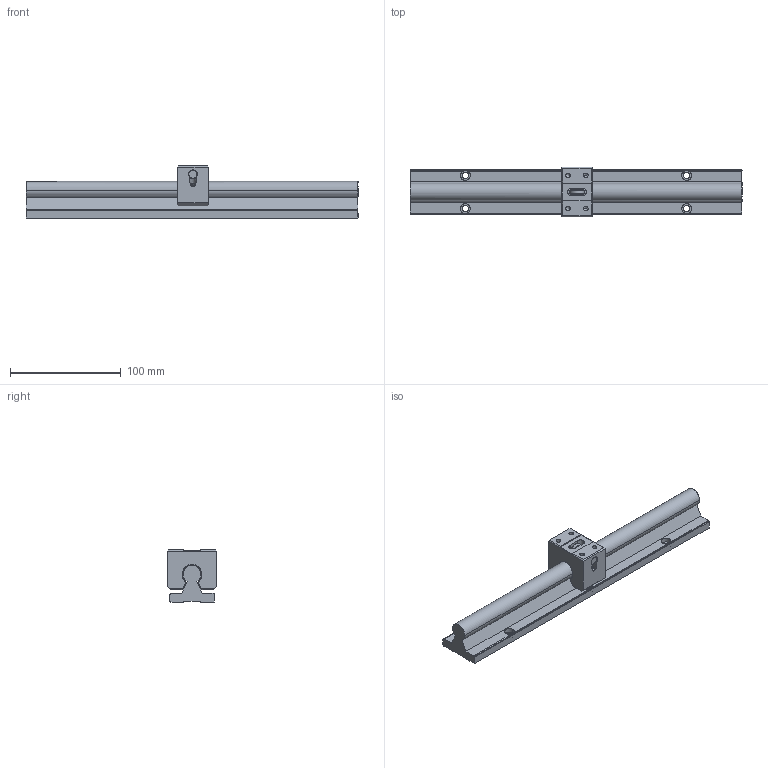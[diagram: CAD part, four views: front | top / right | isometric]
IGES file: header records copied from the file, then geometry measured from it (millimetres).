
Global section: file name: No Iges File Name specified; native system: AutoDesk Inventor R10; preprocessor: AutoDesk Inventor Iges Exporter R10; author: No Author specified; organization: No Organization specified; date: 20101222.160406; units: millimetre
Bounding box: 300 x 45 x 47 mm (x, y, z)
Surface area: 55273.4 mm2 (no closed solid volume)
Topology: 0 solids, 0 shells, 212 faces, 1540 edges, 1526 vertices
Faces by surface type: bspline 212
